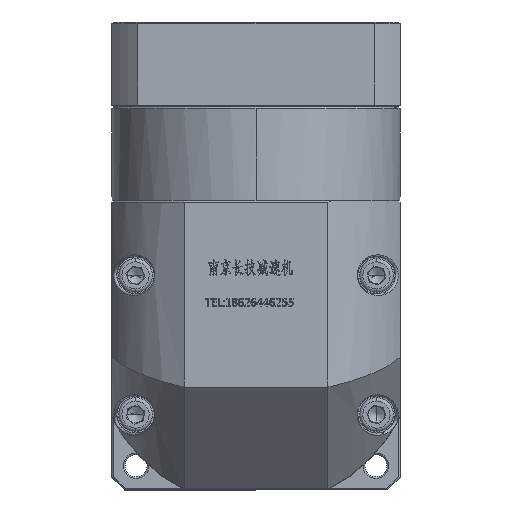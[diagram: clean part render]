
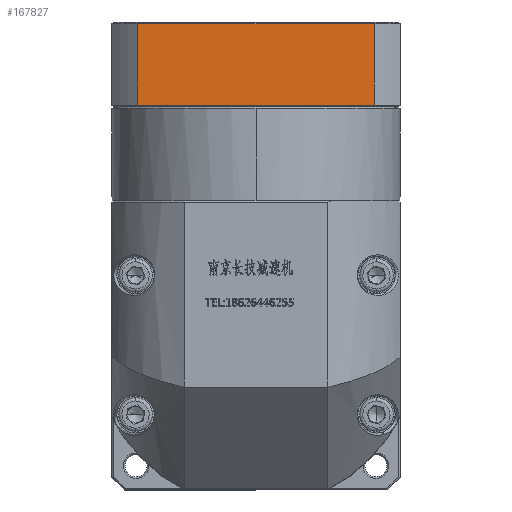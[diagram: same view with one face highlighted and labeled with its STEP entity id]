
A CAD part, top view. The second image highlights one B-rep face of the part: STEP entity #167827.
In plain terms, the highlighted planar face has unit normal (0, 0, 1).
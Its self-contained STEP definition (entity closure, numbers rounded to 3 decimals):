
#1608 = ORIENTED_EDGE ( 'NONE', *, *, #32329, .F. ) ;
#2910 = VECTOR ( 'NONE', #48409, 1000. ) ;
#17731 = CARTESIAN_POINT ( 'NONE',  ( -52.523, 128.593, 129.938 ) ) ;
#32329 = EDGE_CURVE ( 'NONE', #64871, #43158, #156900, .T. ) ;
#32334 = VECTOR ( 'NONE', #137077, 1000. ) ;
#34600 = CARTESIAN_POINT ( 'NONE',  ( -52.523, 128.093, 129.938 ) ) ;
#36618 = DIRECTION ( 'NONE',  ( 0., 0., -1. ) ) ;
#43158 = VERTEX_POINT ( 'NONE', #123483 ) ;
#46751 = FACE_OUTER_BOUND ( 'NONE', #131454, .T. ) ;
#48409 = DIRECTION ( 'NONE',  ( 1., 0., 0. ) ) ;
#51771 = VECTOR ( 'NONE', #113731, 1000. ) ;
#60341 = CARTESIAN_POINT ( 'NONE',  ( -52.523, 128.093, 129.938 ) ) ;
#61797 = VERTEX_POINT ( 'NONE', #162217 ) ;
#63666 = PLANE ( 'NONE',  #141179 ) ;
#64285 = CARTESIAN_POINT ( 'NONE',  ( -122.345, 104.093, 129.938 ) ) ;
#64871 = VERTEX_POINT ( 'NONE', #60341 ) ;
#74793 = LINE ( 'NONE', #173695, #111317 ) ;
#76044 = DIRECTION ( 'NONE',  ( 1., 0., 0. ) ) ;
#79131 = ORIENTED_EDGE ( 'NONE', *, *, #173687, .F. ) ;
#89788 = ORIENTED_EDGE ( 'NONE', *, *, #135857, .F. ) ;
#96193 = ORIENTED_EDGE ( 'NONE', *, *, #116825, .T. ) ;
#111317 = VECTOR ( 'NONE', #76044, 1000. ) ;
#113731 = DIRECTION ( 'NONE',  ( 0., -1., 0. ) ) ;
#116825 = EDGE_CURVE ( 'NONE', #155044, #43158, #74793, .T. ) ;
#118877 = CARTESIAN_POINT ( 'NONE',  ( -52.523, 128.593, 129.938 ) ) ;
#123483 = CARTESIAN_POINT ( 'NONE',  ( -52.523, 104.093, 129.938 ) ) ;
#131454 = EDGE_LOOP ( 'NONE', ( #79131, #89788, #96193, #1608 ) ) ;
#132659 = DIRECTION ( 'NONE',  ( 0., -1., 0. ) ) ;
#135857 = EDGE_CURVE ( 'NONE', #155044, #61797, #141835, .T. ) ;
#137077 = DIRECTION ( 'NONE',  ( 0., 1., 0. ) ) ;
#141179 = AXIS2_PLACEMENT_3D ( 'NONE', #118877, #36618, #132659 ) ;
#141835 = LINE ( 'NONE', #163426, #32334 ) ;
#153125 = LINE ( 'NONE', #34600, #2910 ) ;
#155044 = VERTEX_POINT ( 'NONE', #64285 ) ;
#156900 = LINE ( 'NONE', #17731, #51771 ) ;
#162217 = CARTESIAN_POINT ( 'NONE',  ( -122.345, 128.093, 129.938 ) ) ;
#163426 = CARTESIAN_POINT ( 'NONE',  ( -122.345, 128.593, 129.938 ) ) ;
#167827 = ADVANCED_FACE ( 'NONE', ( #46751 ), #63666, .F. ) ;
#173687 = EDGE_CURVE ( 'NONE', #61797, #64871, #153125, .T. ) ;
#173695 = CARTESIAN_POINT ( 'NONE',  ( -52.523, 104.093, 129.938 ) ) ;
